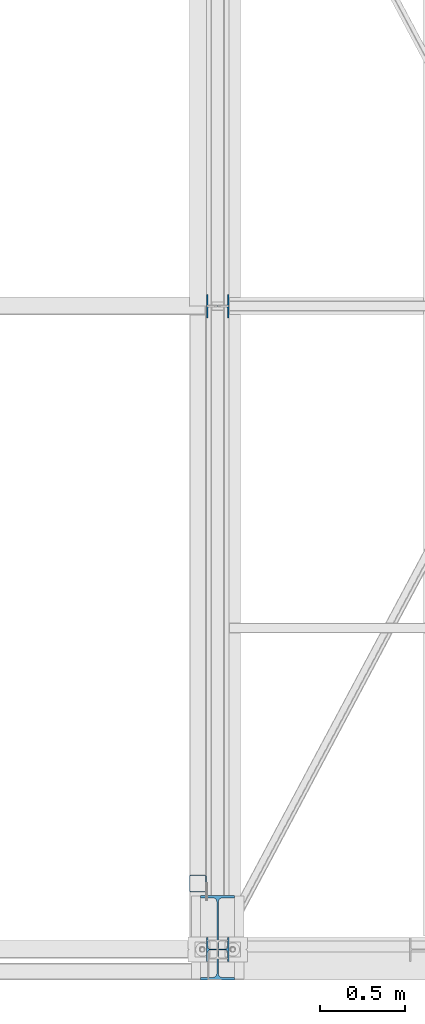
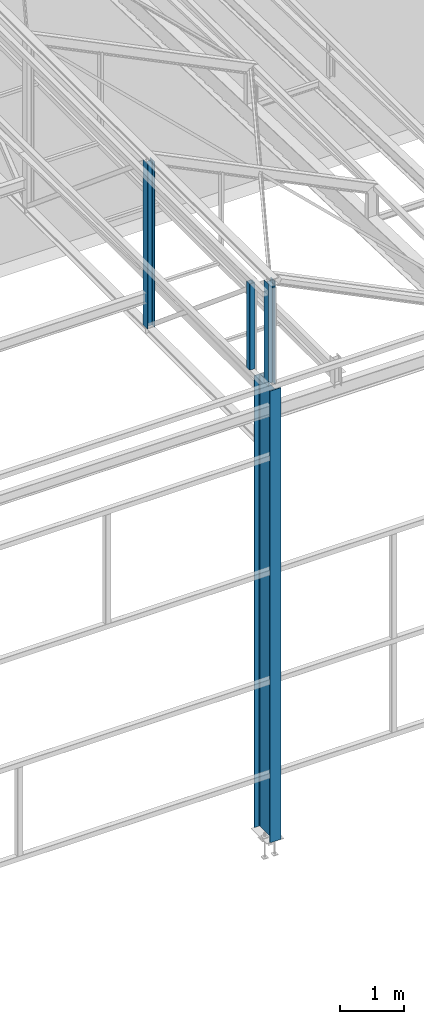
# One storey, part 11 of 123: 4 columns, 4 elements without a shape of their own.
"""IFC2X3 building model written with IfcOpenShell, lengths in millimetres."""

from ifc_helpers import new_model, si_unit, frame, origin_with_axes, origin_2d_with_axis, place, context, subcontext, project, spatial, hollow_rectangle, i_section, extrude, material, type_object, element, aggregate, save


model = new_model("IFC2X3")

# Units and contexts
model_context = context("Model", 3, precision=1e-05, world=origin_with_axes())
body_context = subcontext(model_context, "Body", "Model", "MODEL_VIEW")
ifc_project = project(units=[si_unit("LENGTHUNIT", "METRE", prefix="MILLI"), si_unit("AREAUNIT", "SQUARE_METRE"), si_unit("VOLUMEUNIT", "CUBIC_METRE"), si_unit("MASSUNIT", "GRAM", prefix="KILO"), si_unit("TIMEUNIT", "SECOND"), si_unit("PLANEANGLEUNIT", "RADIAN"), si_unit("SOLIDANGLEUNIT", "STERADIAN"), si_unit("THERMODYNAMICTEMPERATUREUNIT", "DEGREE_CELSIUS"), si_unit("LUMINOUSINTENSITYUNIT", "LUMEN")], contexts=[model_context])

# Site, building, storey
site_placement = place(None, origin_with_axes())
site = spatial("IfcSite", under=ifc_project, at=site_placement, Name="Undefined", CompositionType="ELEMENT")
building_placement = place(site_placement, origin_with_axes())
building = spatial("IfcBuilding", under=site, at=building_placement, Name="Undefined", CompositionType="ELEMENT")
storey_placement = place(building_placement, origin_with_axes())
storey = spatial("IfcBuildingStorey", under=building, at=storey_placement, Name="Undefined", CompositionType="ELEMENT", Elevation=0.0)

# Assembly, column
assembly_1_placement = place(storey_placement, origin_with_axes())
assembly_1 = element("IfcElementAssembly", 1, at=assembly_1_placement, inside=storey, Name="Steel Assembly", AssemblyPlace="NOTDEFINED", PredefinedType="RIGID_FRAME")
ifc_material_1 = material(Name="STEEL/S275-E28")
column_type_1 = type_object("IfcColumnType", Name="IPE500", PredefinedType="NOTDEFINED")
column_1_placement = place(assembly_1_placement, frame((34280.0, 70.0, -235.0), z_axis=(0.0, 0.0, 1.0), x_axis=(0.0, 1.0, 0.0)))
column_1 = element("IfcColumn", 2, at=column_1_placement, type_object=column_type_1, material=ifc_material_1, Name="POTEAU", ObjectType="IPE500", context=body_context, shape_type="SweptSolid", body=[
    extrude(i_section(OverallWidth=200.0, OverallDepth=500.0, WebThickness=10.19999981, FlangeThickness=16.0, FilletRadius=21.0, at=origin_2d_with_axis()), frame((0.0, 0.0, 8675.0), z_axis=(0.0, 0.0, -1.0), x_axis=(0.0, 1.0, 0.0)), (0.0, 0.0, 1.0), 8675.0),
])
aggregate(assembly_1, [column_1])

assembly_2_placement = place(storey_placement, origin_with_axes())
assembly_2 = element("IfcElementAssembly", 3, at=assembly_2_placement, inside=storey, Name="Steel Assembly", AssemblyPlace="NOTDEFINED", PredefinedType="RIGID_FRAME")
column_type_2 = type_object("IfcColumnType", Name="HEA140", PredefinedType="NOTDEFINED")
column_2_placement = place(assembly_2_placement, frame((34280.0, 3800.0, 7250.0), z_axis=(0.0, 0.0, 1.0), x_axis=(-1.0, 0.0, 0.0)))
column_2 = element("IfcColumn", 4, at=column_2_placement, type_object=column_type_2, material=ifc_material_1, Name="MONTANT", ObjectType="HEA140", context=body_context, shape_type="SweptSolid", body=[
    extrude(i_section(OverallWidth=140.0, OverallDepth=133.0, WebThickness=5.5, FlangeThickness=8.5, FilletRadius=12.0, at=origin_2d_with_axis()), frame((0.0, 0.0, 3173.0), z_axis=(0.0, 0.0, -1.0), x_axis=(0.0, 1.0, 0.0)), (0.0, 0.0, 1.0), 3173.0),
])
aggregate(assembly_2, [column_2])

assembly_3_placement = place(storey_placement, origin_with_axes())
assembly_3 = element("IfcElementAssembly", 5, at=assembly_3_placement, inside=storey, Name="Steel Assembly", AssemblyPlace="NOTDEFINED", PredefinedType="RIGID_FRAME")
column_3_placement = place(assembly_3_placement, frame((34280.0, 0.0, 8450.0), z_axis=(0.0, 0.0, 1.0), x_axis=(-1.0, 0.0, 0.0)))
column_3 = element("IfcColumn", 6, at=column_3_placement, type_object=column_type_2, material=ifc_material_1, Name="MONTANT", ObjectType="HEA140", context=body_context, shape_type="SweptSolid", body=[
    extrude(i_section(OverallWidth=140.0, OverallDepth=133.0, WebThickness=5.5, FlangeThickness=8.5, FilletRadius=12.0, at=origin_2d_with_axis()), frame((0.0, 0.0, 1973.0), z_axis=(0.0, 0.0, -1.0), x_axis=(0.0, 1.0, 0.0)), (0.0, 0.0, 1.0), 1973.0),
])
aggregate(assembly_3, [column_3])

assembly_4_placement = place(storey_placement, origin_with_axes())
assembly_4 = element("IfcElementAssembly", 7, at=assembly_4_placement, inside=storey, Name="Steel Assembly", AssemblyPlace="NOTDEFINED", PredefinedType="RIGID_FRAME")
ifc_material_2 = material(Name="STEEL/S235-E24")
column_type_3 = type_object("IfcColumnType", Name="TUBE-C-100*100*4", PredefinedType="NOTDEFINED")
column_4_placement = place(assembly_4_placement, frame((34163.5001166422, 390.000158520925, 8550.00000000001), z_axis=(0.0, 0.0, 1.0), x_axis=(0.0, -1.0, 0.0)))
column_4 = element("IfcColumn", 8, at=column_4_placement, type_object=column_type_3, material=ifc_material_2, Name="MONTANT", ObjectType="TUBE-C-100*100*4", context=body_context, shape_type="SweptSolid", body=[
    extrude(hollow_rectangle(XDim=100.0, YDim=100.0, WallThickness=4.0, InnerFilletRadius=4.0, OuterFilletRadius=8.0, at=origin_2d_with_axis()), frame((0.0, 0.0, 1655.0), z_axis=(0.0, 0.0, -1.0), x_axis=(0.0, 1.0, 0.0)), (0.0, 0.0, 1.0), 1655.0),
])
aggregate(assembly_4, [column_4])

save(model, "model.ifc")
